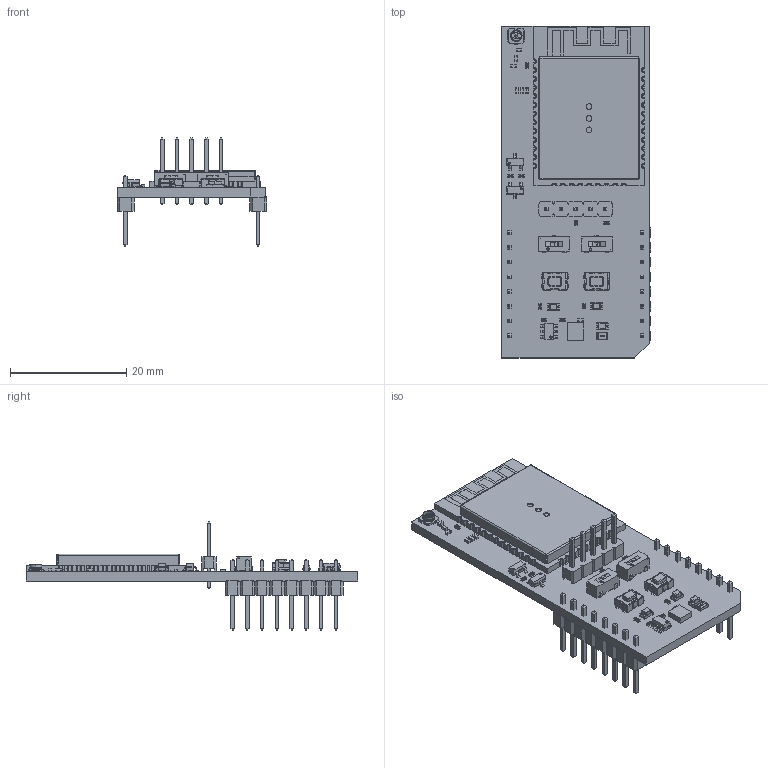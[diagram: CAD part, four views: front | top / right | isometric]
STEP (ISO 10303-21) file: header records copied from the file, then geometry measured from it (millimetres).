
FILE_DESCRIPTION(('Open CASCADE Model'),'2;1');
FILE_NAME('Open CASCADE Shape Model','2025-12-08T15:05:21',('Author'),( 'Open CASCADE'),'Open CASCADE STEP processor 6.8','Open CASCADE 6.8' ,'Unknown');
FILE_SCHEMA(('AUTOMOTIVE_DESIGN { 1 0 10303 214 1 1 1 1 }'));
Length unit declared in the file: millimetre
Products named in the file (67): PCB; Board; R10; User_Library-R_0402; R9; U2; User_Library-SOT23-6-2; U1; 604340032; Extruded; R4; C1; User_Library-SMD_CAPACITOR0402; LD1; led_0805_green; R1; User_Library-R_0805; R3; MBD1; Header_1x8; Free-Models; 1240637040; User_Library-PinHeaderX5-1_PinHeaderX5_Body_1; User_Library-PinHeaderX5-1_PinHeaderX5_Pins_1; CN1; U.FL-R-SMT-1; C3; C4; C5; J1; HM1x5; 6130xx11121_PIN; 61300511121; LD2; led_0805_yellow; LD3; Q1; SOT23-3; Q2; R2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
Assembly tree (125 placements, depth 7):
  PCB
    Board
    R10
      User_Library-R_0402
    R9
      User_Library-R_0402
    U2
      User_Library-SOT23-6-2
    U1
      604340032
        Extruded
    R4
      User_Library-R_0402
    C1
      User_Library-SMD_CAPACITOR0402
    LD1
      led_0805_green
    R1
      User_Library-R_0805
    R3
      User_Library-R_0402
    MBD1
      Header_1x8  x2
        PCB
          Free-Models
            1240637040  x2
              User_Library-PinHeaderX5-1_PinHeaderX5_Body_1
              User_Library-PinHeaderX5-1_PinHeaderX5_Pins_1
    CN1
      U.FL-R-SMT-1
    C3
      User_Library-SMD_CAPACITOR0402
    C4
      User_Library-SMD_CAPACITOR0402
    C5
      User_Library-SMD_CAPACITOR0402
    J1
      HM1x5
        6130xx11121_PIN  x5
        61300511121
    LD2
      led_0805_yellow
    LD3
      led_0805_green
    Q1
      SOT23-3
    Q2
      SOT23-3
    R2
      User_Library-R_0402
    R5
      User_Library-R_0402
    R6
      User_Library-R_0402
    R7
      User_Library-R_0402
    R8
      User_Library-R_0402
    SW1
      Cas-120a1
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Bounding box: 25.78 x 57.18 x 18.65 mm (x, y, z)
Volume: 3745.1 mm3; surface area: 7719.7 mm2
Topology: 131 solids, 131 shells, 3362 faces, 8422 edges, 5346 vertices
Faces by surface type: plane 2538, cylinder 440, bspline 288, sphere 74, cone 20, revolution 2
Full cylindrical faces by diameter (mm): 1 x3
Entity records: 49899 total; most frequent: CARTESIAN_POINT 11466, ORIENTED_EDGE 6702, DIRECTION 6305, EDGE_CURVE 3351, LINE 2785, VECTOR 2785, VERTEX_POINT 2148, AXIS2_PLACEMENT_3D 1759
